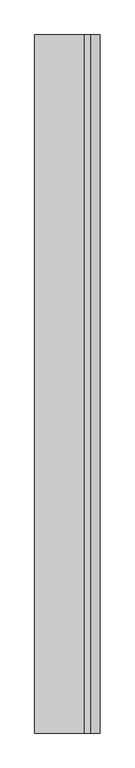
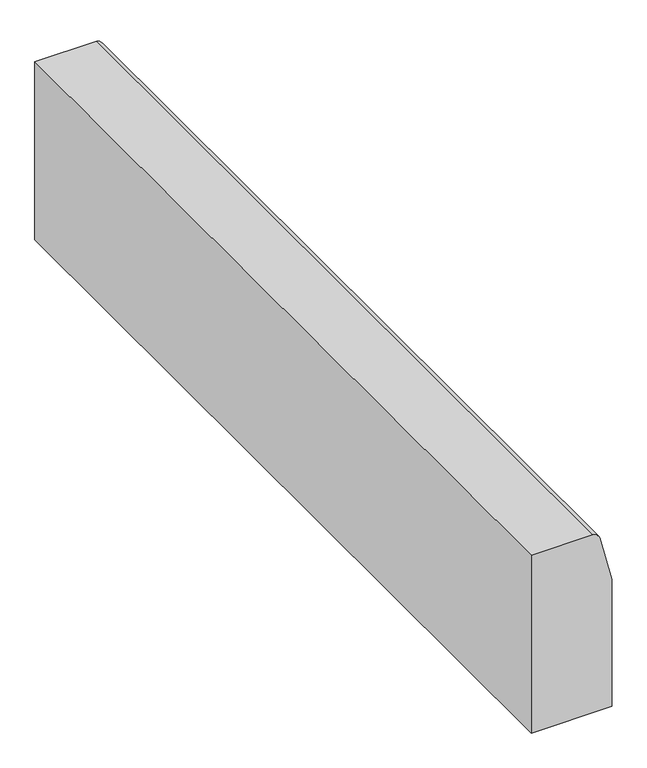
"""IFC4 building model written with IfcOpenShell, lengths in millimetres: railing geometry, BORDILLO BARRERA RECTA_MDSA-U10-3540_TITAN_40x35x15."""

from ifc_helpers import new_model, si_unit, point, frame, frame_2d, origin, place, context, project, spatial, polyline, circle_curve, trimmed, segment, composite_curve, outline, extrude, source, transform, mapped, element, save


def railing_1f8f8446(model_context):
    return source(origin(), model_context, "Body", "SweptSolid", [
        extrude(outline(composite_curve([segment(polyline([(0.0, -4393.8343252), (250.0, -4393.8343252), (339.607052, -4416.1758725)]), True, "CONTINUOUS"), segment(trimmed(circle_curve(frame_2d((330.8066955, -4433.8813695)), 19.7719725), [point((339.607052, -4416.1758725))], [point((350.0, -4429.1329002))], False, "CARTESIAN"), True, "CONTINUOUS"), segment(polyline([(350.0, -4429.1329002), (350.0, -4543.8343252), (0.0, -4543.8343252), (0.0, -4393.8343252)]), True, "CONTINUOUS")], self_intersect=False)), frame((0.0, 1338.5861748, 0.0), z_axis=(0.0, 1.0, 0.0), x_axis=(0.0, 0.0, 1.0)), (0.0, 0.0, 1.0), 1600.0),
    ])


if __name__ == "__main__":
    model = new_model("IFC4")
    model_context = context("Model", 3, world=origin())
    ifc_project = project(units=[si_unit("LENGTHUNIT", "METRE", prefix="MILLI")], contexts=[model_context])
    site = spatial("IfcSite", under=ifc_project)
    building = spatial("IfcBuilding", under=site)
    placement = place(None, origin())
    railing_shape = railing_1f8f8446(model_context)
    element("IfcRailing", 1, ObjectType="BORDILLO BARRERA RECTA_MDSA-U10-3540_TITAN_40x35x15", at=placement, inside=building, context=model_context, shape_type="MappedRepresentation", body=[
        mapped(railing_shape, transform((0.0, 0.0, 0.0), x_axis=(1.0, 0.0, 0.0), y_axis=(0.0, 1.0, 0.0), z_axis=(0.0, 0.0, 1.0))),
    ])
    save(model, "model.ifc")
